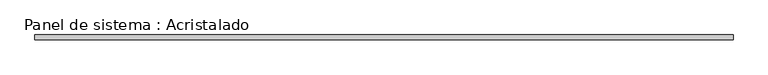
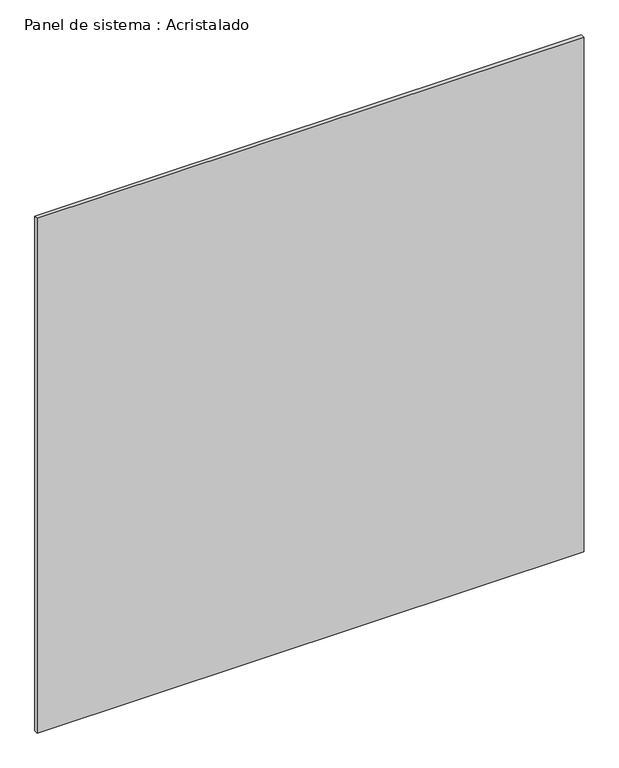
"""IFC4 building model written with IfcOpenShell, lengths in millimetres: plate geometry, Panel de sistema : Acristalado."""

from ifc_helpers import new_model, si_unit, origin, origin_with_axes, place, context, project, spatial, polyline, outline, extrude, source, transform, mapped, element, save


def panel_de_sistema_acristalado_386d4e2f(model_context):
    return source(origin(), model_context, "Body", "SweptSolid", [
        extrude(outline(polyline([(1416.9310345, -10.0), (-1416.9310345, -10.0), (-1416.9310345, 10.0), (1416.9310345, 10.0), (1416.9310345, -10.0)])), origin_with_axes(), (0.0, 0.0, 1.0), 2820.0),
    ])


if __name__ == "__main__":
    model = new_model("IFC4")
    model_context = context("Model", 3, world=origin())
    ifc_project = project(units=[si_unit("LENGTHUNIT", "METRE", prefix="MILLI")], contexts=[model_context])
    site = spatial("IfcSite", under=ifc_project)
    building = spatial("IfcBuilding", under=site)
    placement = place(None, origin())
    panel_de_sistema_acristalado_shape = panel_de_sistema_acristalado_386d4e2f(model_context)
    element("IfcPlate", 1, ObjectType="Panel de sistema : Acristalado", at=placement, inside=building, context=model_context, shape_type="MappedRepresentation", body=[
        mapped(panel_de_sistema_acristalado_shape, transform((0.0, 0.0, 0.0), x_axis=(1.0, 0.0, 0.0), y_axis=(0.0, 1.0, 0.0), z_axis=(0.0, 0.0, 1.0))),
    ])
    save(model, "model.ifc")
